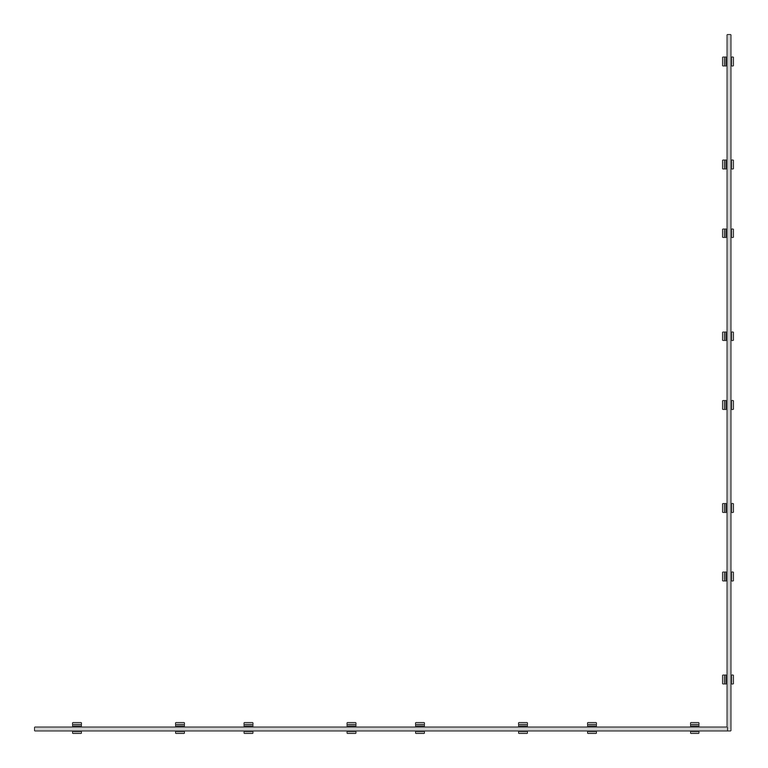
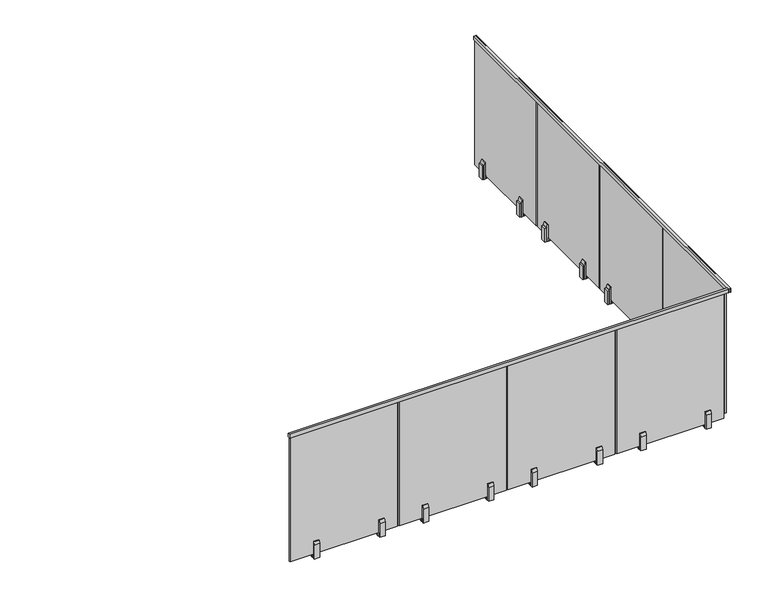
"""IFC4 building model written with IfcOpenShell, lengths in millimetres: railing geometry, VIVA-VISIO-Glass-Steel Fascia Mount-Straight."""

from ifc_helpers import new_model, si_unit, frame, origin, place, context, project, spatial, polyline, outline, extrude, source, transform, mapped, element, save


def railing_caa6281a(model_context):
    return source(origin(), model_context, "Body", "SweptSolid", [
        extrude(outline(polyline([(-12655.0973017, 4140.2), (-12655.0973017, 4102.1), (-12659.6117549, 4102.1), (-12659.6117549, 4136.39), (-12672.3117549, 4136.39), (-12672.3117549, 4102.1), (-12676.826208, 4102.1), (-12676.826208, 4140.2), (-12655.0973017, 4140.2)])), frame((30452.8112561, 0.0, 0.0), z_axis=(1.0, 0.0, 0.0), x_axis=(0.0, 1.0, 0.0)), (0.0, 0.0, 1.0), 4167.4355469),
        extrude(outline(polyline([(4140.2, 34620.2468029), (4102.1, 34620.2468029), (4102.1, 34624.7612561), (4136.39, 34624.7612561), (4136.39, 34637.4612561), (4102.1, 34637.4612561), (4102.1, 34641.9757092), (4140.2, 34641.9757092), (4140.2, 34620.2468029)])), frame((0.0, -12676.826208, 0.0), z_axis=(0.0, 1.0, 0.0), x_axis=(0.0, 0.0, 1.0)), (0.0, 0.0, 1.0), 4189.1644531),
        extrude(outline(polyline([(34593.0112561, -8673.7363268), (34593.0112561, -8622.9363268), (34605.7112561, -8622.9363268), (34605.7112561, -8673.7363268), (34593.0112561, -8673.7363268)])), frame((0.0, 0.0, 2821.0268247), z_axis=(0.0, 0.0, 1.0), x_axis=(1.0, 0.0, 0.0)), (0.0, 0.0, 1.0), 135.5680003),
        extrude(outline(polyline([(34624.7612561, -8673.7363268), (34624.7612561, -8622.9363268), (34637.4612561, -8622.9363268), (34637.4612561, -8673.7363268), (34624.7612561, -8673.7363268)])), frame((0.0, 0.0, 2818.5202907), z_axis=(0.0, 0.0, 1.0), x_axis=(1.0, 0.0, 0.0)), (0.0, 0.0, 1.0), 36.5125),
        extrude(outline(polyline([(2818.5202907, 34605.7112561), (2818.5202907, 34624.7612561), (2985.2077907, 34624.7612561), (2985.2077907, 34616.8237561), (2958.2202907, 34605.7112561), (2818.5202907, 34605.7112561)])), frame((0.0, -8673.7363268, 0.0), z_axis=(0.0, 1.0, 0.0), x_axis=(0.0, 0.0, 1.0)), (0.0, 0.0, 1.0), 50.8),
        extrude(outline(polyline([(2818.5202907, 34656.5112561), (2958.2202907, 34656.5112561), (2985.2077907, 34645.3987561), (2985.2077907, 34637.4612561), (2818.5202907, 34637.4612561), (2818.5202907, 34656.5112561)])), frame((0.0, -8673.7363268, 0.0), z_axis=(0.0, 1.0, 0.0), x_axis=(0.0, 0.0, 1.0)), (0.0, 0.0, 1.0), 50.8),
        extrude(outline(polyline([(34624.7612561, -9512.0099583), (34624.7612561, -8496.0099583), (34637.4612561, -8496.0099583), (34637.4612561, -9512.0099583), (34624.7612561, -9512.0099583)])), frame((0.0, 0.0, 2855.0362), z_axis=(0.0, 0.0, 1.0), x_axis=(1.0, 0.0, 0.0)), (0.0, 0.0, 1.0), 1279.7663),
        extrude(outline(polyline([(34593.0112561, -9293.8138268), (34593.0112561, -9243.0138268), (34605.7112561, -9243.0138268), (34605.7112561, -9293.8138268), (34593.0112561, -9293.8138268)])), frame((0.0, 0.0, 2821.0268247), z_axis=(0.0, 0.0, 1.0), x_axis=(1.0, 0.0, 0.0)), (0.0, 0.0, 1.0), 135.5680003),
        extrude(outline(polyline([(34624.7612561, -9293.8138268), (34624.7612561, -9243.0138268), (34637.4612561, -9243.0138268), (34637.4612561, -9293.8138268), (34624.7612561, -9293.8138268)])), frame((0.0, 0.0, 2818.5202907), z_axis=(0.0, 0.0, 1.0), x_axis=(1.0, 0.0, 0.0)), (0.0, 0.0, 1.0), 36.5125),
        extrude(outline(polyline([(2818.5202907, 34605.7112561), (2818.5202907, 34624.7612561), (2985.2077907, 34624.7612561), (2985.2077907, 34616.8237561), (2958.2202907, 34605.7112561), (2818.5202907, 34605.7112561)])), frame((0.0, -9293.8138268, 0.0), z_axis=(0.0, 1.0, 0.0), x_axis=(0.0, 0.0, 1.0)), (0.0, 0.0, 1.0), 50.8),
        extrude(outline(polyline([(2818.5202907, 34656.5112561), (2958.2202907, 34656.5112561), (2985.2077907, 34645.3987561), (2985.2077907, 34637.4612561), (2818.5202907, 34637.4612561), (2818.5202907, 34656.5112561)])), frame((0.0, -9293.8138268, 0.0), z_axis=(0.0, 1.0, 0.0), x_axis=(0.0, 0.0, 1.0)), (0.0, 0.0, 1.0), 50.8),
        extrude(outline(polyline([(34593.0112561, -9707.1988268), (34593.0112561, -9656.3988268), (34605.7112561, -9656.3988268), (34605.7112561, -9707.1988268), (34593.0112561, -9707.1988268)])), frame((0.0, 0.0, 2821.0268247), z_axis=(0.0, 0.0, 1.0), x_axis=(1.0, 0.0, 0.0)), (0.0, 0.0, 1.0), 135.5680003),
        extrude(outline(polyline([(34624.7612561, -9707.1988268), (34624.7612561, -9656.3988268), (34637.4612561, -9656.3988268), (34637.4612561, -9707.1988268), (34624.7612561, -9707.1988268)])), frame((0.0, 0.0, 2818.5202907), z_axis=(0.0, 0.0, 1.0), x_axis=(1.0, 0.0, 0.0)), (0.0, 0.0, 1.0), 36.5125),
        extrude(outline(polyline([(2818.5202907, 34605.7112561), (2818.5202907, 34624.7612561), (2985.2077907, 34624.7612561), (2985.2077907, 34616.8237561), (2958.2202907, 34605.7112561), (2818.5202907, 34605.7112561)])), frame((0.0, -9707.1988268, 0.0), z_axis=(0.0, 1.0, 0.0), x_axis=(0.0, 0.0, 1.0)), (0.0, 0.0, 1.0), 50.8),
        extrude(outline(polyline([(2818.5202907, 34656.5112561), (2958.2202907, 34656.5112561), (2985.2077907, 34645.3987561), (2985.2077907, 34637.4612561), (2818.5202907, 34637.4612561), (2818.5202907, 34656.5112561)])), frame((0.0, -9707.1988268, 0.0), z_axis=(0.0, 1.0, 0.0), x_axis=(0.0, 0.0, 1.0)), (0.0, 0.0, 1.0), 50.8),
        extrude(outline(polyline([(34624.7612561, -10545.4724583), (34624.7612561, -9529.4724583), (34637.4612561, -9529.4724583), (34637.4612561, -10545.4724583), (34624.7612561, -10545.4724583)])), frame((0.0, 0.0, 2855.0362), z_axis=(0.0, 0.0, 1.0), x_axis=(1.0, 0.0, 0.0)), (0.0, 0.0, 1.0), 1279.7663),
        extrude(outline(polyline([(34593.0112561, -10327.2763268), (34593.0112561, -10276.4763268), (34605.7112561, -10276.4763268), (34605.7112561, -10327.2763268), (34593.0112561, -10327.2763268)])), frame((0.0, 0.0, 2821.0268247), z_axis=(0.0, 0.0, 1.0), x_axis=(1.0, 0.0, 0.0)), (0.0, 0.0, 1.0), 135.5680003),
        extrude(outline(polyline([(34624.7612561, -10327.2763268), (34624.7612561, -10276.4763268), (34637.4612561, -10276.4763268), (34637.4612561, -10327.2763268), (34624.7612561, -10327.2763268)])), frame((0.0, 0.0, 2818.5202907), z_axis=(0.0, 0.0, 1.0), x_axis=(1.0, 0.0, 0.0)), (0.0, 0.0, 1.0), 36.5125),
        extrude(outline(polyline([(2818.5202907, 34605.7112561), (2818.5202907, 34624.7612561), (2985.2077907, 34624.7612561), (2985.2077907, 34616.8237561), (2958.2202907, 34605.7112561), (2818.5202907, 34605.7112561)])), frame((0.0, -10327.2763268, 0.0), z_axis=(0.0, 1.0, 0.0), x_axis=(0.0, 0.0, 1.0)), (0.0, 0.0, 1.0), 50.8),
        extrude(outline(polyline([(2818.5202907, 34656.5112561), (2958.2202907, 34656.5112561), (2985.2077907, 34645.3987561), (2985.2077907, 34637.4612561), (2818.5202907, 34637.4612561), (2818.5202907, 34656.5112561)])), frame((0.0, -10327.2763268, 0.0), z_axis=(0.0, 1.0, 0.0), x_axis=(0.0, 0.0, 1.0)), (0.0, 0.0, 1.0), 50.8),
        extrude(outline(polyline([(34593.0112561, -10740.6613268), (34593.0112561, -10689.8613268), (34605.7112561, -10689.8613268), (34605.7112561, -10740.6613268), (34593.0112561, -10740.6613268)])), frame((0.0, 0.0, 2821.0268247), z_axis=(0.0, 0.0, 1.0), x_axis=(1.0, 0.0, 0.0)), (0.0, 0.0, 1.0), 135.5680003),
        extrude(outline(polyline([(34624.7612561, -10740.6613268), (34624.7612561, -10689.8613268), (34637.4612561, -10689.8613268), (34637.4612561, -10740.6613268), (34624.7612561, -10740.6613268)])), frame((0.0, 0.0, 2818.5202907), z_axis=(0.0, 0.0, 1.0), x_axis=(1.0, 0.0, 0.0)), (0.0, 0.0, 1.0), 36.5125),
        extrude(outline(polyline([(2818.5202907, 34605.7112561), (2818.5202907, 34624.7612561), (2985.2077907, 34624.7612561), (2985.2077907, 34616.8237561), (2958.2202907, 34605.7112561), (2818.5202907, 34605.7112561)])), frame((0.0, -10740.6613268, 0.0), z_axis=(0.0, 1.0, 0.0), x_axis=(0.0, 0.0, 1.0)), (0.0, 0.0, 1.0), 50.8),
        extrude(outline(polyline([(2818.5202907, 34656.5112561), (2958.2202907, 34656.5112561), (2985.2077907, 34645.3987561), (2985.2077907, 34637.4612561), (2818.5202907, 34637.4612561), (2818.5202907, 34656.5112561)])), frame((0.0, -10740.6613268, 0.0), z_axis=(0.0, 1.0, 0.0), x_axis=(0.0, 0.0, 1.0)), (0.0, 0.0, 1.0), 50.8),
        extrude(outline(polyline([(34624.7612561, -11578.9349583), (34624.7612561, -10562.9349583), (34637.4612561, -10562.9349583), (34637.4612561, -11578.9349583), (34624.7612561, -11578.9349583)])), frame((0.0, 0.0, 2855.0362), z_axis=(0.0, 0.0, 1.0), x_axis=(1.0, 0.0, 0.0)), (0.0, 0.0, 1.0), 1279.7663),
        extrude(outline(polyline([(34593.0112561, -11360.7388268), (34593.0112561, -11309.9388268), (34605.7112561, -11309.9388268), (34605.7112561, -11360.7388268), (34593.0112561, -11360.7388268)])), frame((0.0, 0.0, 2821.0268247), z_axis=(0.0, 0.0, 1.0), x_axis=(1.0, 0.0, 0.0)), (0.0, 0.0, 1.0), 135.5680003),
        extrude(outline(polyline([(34624.7612561, -11360.7388268), (34624.7612561, -11309.9388268), (34637.4612561, -11309.9388268), (34637.4612561, -11360.7388268), (34624.7612561, -11360.7388268)])), frame((0.0, 0.0, 2818.5202907), z_axis=(0.0, 0.0, 1.0), x_axis=(1.0, 0.0, 0.0)), (0.0, 0.0, 1.0), 36.5125),
        extrude(outline(polyline([(2818.5202907, 34605.7112561), (2818.5202907, 34624.7612561), (2985.2077907, 34624.7612561), (2985.2077907, 34616.8237561), (2958.2202907, 34605.7112561), (2818.5202907, 34605.7112561)])), frame((0.0, -11360.7388268, 0.0), z_axis=(0.0, 1.0, 0.0), x_axis=(0.0, 0.0, 1.0)), (0.0, 0.0, 1.0), 50.8),
        extrude(outline(polyline([(2818.5202907, 34656.5112561), (2958.2202907, 34656.5112561), (2985.2077907, 34645.3987561), (2985.2077907, 34637.4612561), (2818.5202907, 34637.4612561), (2818.5202907, 34656.5112561)])), frame((0.0, -11360.7388268, 0.0), z_axis=(0.0, 1.0, 0.0), x_axis=(0.0, 0.0, 1.0)), (0.0, 0.0, 1.0), 50.8),
        extrude(outline(polyline([(34593.0112561, -11774.1238268), (34593.0112561, -11723.3238268), (34605.7112561, -11723.3238268), (34605.7112561, -11774.1238268), (34593.0112561, -11774.1238268)])), frame((0.0, 0.0, 2821.0268247), z_axis=(0.0, 0.0, 1.0), x_axis=(1.0, 0.0, 0.0)), (0.0, 0.0, 1.0), 135.5680003),
        extrude(outline(polyline([(34624.7612561, -11774.1238268), (34624.7612561, -11723.3238268), (34637.4612561, -11723.3238268), (34637.4612561, -11774.1238268), (34624.7612561, -11774.1238268)])), frame((0.0, 0.0, 2818.5202907), z_axis=(0.0, 0.0, 1.0), x_axis=(1.0, 0.0, 0.0)), (0.0, 0.0, 1.0), 36.5125),
        extrude(outline(polyline([(2818.5202907, 34605.7112561), (2818.5202907, 34624.7612561), (2985.2077907, 34624.7612561), (2985.2077907, 34616.8237561), (2958.2202907, 34605.7112561), (2818.5202907, 34605.7112561)])), frame((0.0, -11774.1238268, 0.0), z_axis=(0.0, 1.0, 0.0), x_axis=(0.0, 0.0, 1.0)), (0.0, 0.0, 1.0), 50.8),
        extrude(outline(polyline([(2818.5202907, 34656.5112561), (2958.2202907, 34656.5112561), (2985.2077907, 34645.3987561), (2985.2077907, 34637.4612561), (2818.5202907, 34637.4612561), (2818.5202907, 34656.5112561)])), frame((0.0, -11774.1238268, 0.0), z_axis=(0.0, 1.0, 0.0), x_axis=(0.0, 0.0, 1.0)), (0.0, 0.0, 1.0), 50.8),
        extrude(outline(polyline([(34624.7612561, -12612.3974583), (34624.7612561, -11596.3974583), (34637.4612561, -11596.3974583), (34637.4612561, -12612.3974583), (34624.7612561, -12612.3974583)])), frame((0.0, 0.0, 2855.0362), z_axis=(0.0, 0.0, 1.0), x_axis=(1.0, 0.0, 0.0)), (0.0, 0.0, 1.0), 1279.7663),
        extrude(outline(polyline([(34593.0112561, -12394.2013268), (34593.0112561, -12343.4013268), (34605.7112561, -12343.4013268), (34605.7112561, -12394.2013268), (34593.0112561, -12394.2013268)])), frame((0.0, 0.0, 2821.0268247), z_axis=(0.0, 0.0, 1.0), x_axis=(1.0, 0.0, 0.0)), (0.0, 0.0, 1.0), 135.5680003),
        extrude(outline(polyline([(34624.7612561, -12394.2013268), (34624.7612561, -12343.4013268), (34637.4612561, -12343.4013268), (34637.4612561, -12394.2013268), (34624.7612561, -12394.2013268)])), frame((0.0, 0.0, 2818.5202907), z_axis=(0.0, 0.0, 1.0), x_axis=(1.0, 0.0, 0.0)), (0.0, 0.0, 1.0), 36.5125),
        extrude(outline(polyline([(2818.5202907, 34605.7112561), (2818.5202907, 34624.7612561), (2985.2077907, 34624.7612561), (2985.2077907, 34616.8237561), (2958.2202907, 34605.7112561), (2818.5202907, 34605.7112561)])), frame((0.0, -12394.2013268, 0.0), z_axis=(0.0, 1.0, 0.0), x_axis=(0.0, 0.0, 1.0)), (0.0, 0.0, 1.0), 50.8),
        extrude(outline(polyline([(2818.5202907, 34656.5112561), (2958.2202907, 34656.5112561), (2985.2077907, 34645.3987561), (2985.2077907, 34637.4612561), (2818.5202907, 34637.4612561), (2818.5202907, 34656.5112561)])), frame((0.0, -12394.2013268, 0.0), z_axis=(0.0, 1.0, 0.0), x_axis=(0.0, 0.0, 1.0)), (0.0, 0.0, 1.0), 50.8),
        extrude(outline(polyline([(34400.5866841, -12627.8617549), (34451.3866841, -12627.8617549), (34451.3866841, -12640.5617549), (34400.5866841, -12640.5617549), (34400.5866841, -12627.8617549)])), frame((0.0, 0.0, 2821.0268247), z_axis=(0.0, 0.0, 1.0), x_axis=(1.0, 0.0, 0.0)), (0.0, 0.0, 1.0), 135.5680003),
        extrude(outline(polyline([(34400.5866841, -12659.6117549), (34451.3866841, -12659.6117549), (34451.3866841, -12672.3117549), (34400.5866841, -12672.3117549), (34400.5866841, -12659.6117549)])), frame((0.0, 0.0, 2818.5202907), z_axis=(0.0, 0.0, 1.0), x_axis=(1.0, 0.0, 0.0)), (0.0, 0.0, 1.0), 36.5125),
        extrude(outline(polyline([(-12640.5617549, 2818.5202907), (-12659.6117549, 2818.5202907), (-12659.6117549, 2985.2077907), (-12651.6742549, 2985.2077907), (-12640.5617549, 2958.2202907), (-12640.5617549, 2818.5202907)])), frame((34400.5866841, 0.0, 0.0), z_axis=(1.0, 0.0, 0.0), x_axis=(0.0, 1.0, 0.0)), (0.0, 0.0, 1.0), 50.8),
        extrude(outline(polyline([(-12691.3617549, 2818.5202907), (-12691.3617549, 2958.2202907), (-12680.2492549, 2985.2077907), (-12672.3117549, 2985.2077907), (-12672.3117549, 2818.5202907), (-12691.3617549, 2818.5202907)])), frame((34400.5866841, 0.0, 0.0), z_axis=(1.0, 0.0, 0.0), x_axis=(0.0, 1.0, 0.0)), (0.0, 0.0, 1.0), 50.8),
        extrude(outline(polyline([(33562.3130527, -12659.6117549), (34578.3130527, -12659.6117549), (34578.3130527, -12672.3117549), (33562.3130527, -12672.3117549), (33562.3130527, -12659.6117549)])), frame((0.0, 0.0, 2855.0362), z_axis=(0.0, 0.0, 1.0), x_axis=(1.0, 0.0, 0.0)), (0.0, 0.0, 1.0), 1279.7663),
        extrude(outline(polyline([(33780.5091841, -12627.8617549), (33831.3091841, -12627.8617549), (33831.3091841, -12640.5617549), (33780.5091841, -12640.5617549), (33780.5091841, -12627.8617549)])), frame((0.0, 0.0, 2821.0268247), z_axis=(0.0, 0.0, 1.0), x_axis=(1.0, 0.0, 0.0)), (0.0, 0.0, 1.0), 135.5680003),
        extrude(outline(polyline([(33780.5091841, -12659.6117549), (33831.3091841, -12659.6117549), (33831.3091841, -12672.3117549), (33780.5091841, -12672.3117549), (33780.5091841, -12659.6117549)])), frame((0.0, 0.0, 2818.5202907), z_axis=(0.0, 0.0, 1.0), x_axis=(1.0, 0.0, 0.0)), (0.0, 0.0, 1.0), 36.5125),
        extrude(outline(polyline([(-12640.5617549, 2818.5202907), (-12659.6117549, 2818.5202907), (-12659.6117549, 2985.2077907), (-12651.6742549, 2985.2077907), (-12640.5617549, 2958.2202907), (-12640.5617549, 2818.5202907)])), frame((33780.5091841, 0.0, 0.0), z_axis=(1.0, 0.0, 0.0), x_axis=(0.0, 1.0, 0.0)), (0.0, 0.0, 1.0), 50.8),
        extrude(outline(polyline([(-12691.3617549, 2818.5202907), (-12691.3617549, 2958.2202907), (-12680.2492549, 2985.2077907), (-12672.3117549, 2985.2077907), (-12672.3117549, 2818.5202907), (-12691.3617549, 2818.5202907)])), frame((33780.5091841, 0.0, 0.0), z_axis=(1.0, 0.0, 0.0), x_axis=(0.0, 1.0, 0.0)), (0.0, 0.0, 1.0), 50.8),
        extrude(outline(polyline([(33367.1241841, -12627.8617549), (33417.9241841, -12627.8617549), (33417.9241841, -12640.5617549), (33367.1241841, -12640.5617549), (33367.1241841, -12627.8617549)])), frame((0.0, 0.0, 2821.0268247), z_axis=(0.0, 0.0, 1.0), x_axis=(1.0, 0.0, 0.0)), (0.0, 0.0, 1.0), 135.5680003),
        extrude(outline(polyline([(33367.1241841, -12659.6117549), (33417.9241841, -12659.6117549), (33417.9241841, -12672.3117549), (33367.1241841, -12672.3117549), (33367.1241841, -12659.6117549)])), frame((0.0, 0.0, 2818.5202907), z_axis=(0.0, 0.0, 1.0), x_axis=(1.0, 0.0, 0.0)), (0.0, 0.0, 1.0), 36.5125),
        extrude(outline(polyline([(-12640.5617549, 2818.5202907), (-12659.6117549, 2818.5202907), (-12659.6117549, 2985.2077907), (-12651.6742549, 2985.2077907), (-12640.5617549, 2958.2202907), (-12640.5617549, 2818.5202907)])), frame((33367.1241841, 0.0, 0.0), z_axis=(1.0, 0.0, 0.0), x_axis=(0.0, 1.0, 0.0)), (0.0, 0.0, 1.0), 50.8),
        extrude(outline(polyline([(-12691.3617549, 2818.5202907), (-12691.3617549, 2958.2202907), (-12680.2492549, 2985.2077907), (-12672.3117549, 2985.2077907), (-12672.3117549, 2818.5202907), (-12691.3617549, 2818.5202907)])), frame((33367.1241841, 0.0, 0.0), z_axis=(1.0, 0.0, 0.0), x_axis=(0.0, 1.0, 0.0)), (0.0, 0.0, 1.0), 50.8),
        extrude(outline(polyline([(32528.8505527, -12659.6117549), (33544.8505527, -12659.6117549), (33544.8505527, -12672.3117549), (32528.8505527, -12672.3117549), (32528.8505527, -12659.6117549)])), frame((0.0, 0.0, 2855.0362), z_axis=(0.0, 0.0, 1.0), x_axis=(1.0, 0.0, 0.0)), (0.0, 0.0, 1.0), 1279.7663),
        extrude(outline(polyline([(32747.0466841, -12627.8617549), (32797.8466841, -12627.8617549), (32797.8466841, -12640.5617549), (32747.0466841, -12640.5617549), (32747.0466841, -12627.8617549)])), frame((0.0, 0.0, 2821.0268247), z_axis=(0.0, 0.0, 1.0), x_axis=(1.0, 0.0, 0.0)), (0.0, 0.0, 1.0), 135.5680003),
        extrude(outline(polyline([(32747.0466841, -12659.6117549), (32797.8466841, -12659.6117549), (32797.8466841, -12672.3117549), (32747.0466841, -12672.3117549), (32747.0466841, -12659.6117549)])), frame((0.0, 0.0, 2818.5202907), z_axis=(0.0, 0.0, 1.0), x_axis=(1.0, 0.0, 0.0)), (0.0, 0.0, 1.0), 36.5125),
        extrude(outline(polyline([(-12640.5617549, 2818.5202907), (-12659.6117549, 2818.5202907), (-12659.6117549, 2985.2077907), (-12651.6742549, 2985.2077907), (-12640.5617549, 2958.2202907), (-12640.5617549, 2818.5202907)])), frame((32747.0466841, 0.0, 0.0), z_axis=(1.0, 0.0, 0.0), x_axis=(0.0, 1.0, 0.0)), (0.0, 0.0, 1.0), 50.8),
        extrude(outline(polyline([(-12691.3617549, 2818.5202907), (-12691.3617549, 2958.2202907), (-12680.2492549, 2985.2077907), (-12672.3117549, 2985.2077907), (-12672.3117549, 2818.5202907), (-12691.3617549, 2818.5202907)])), frame((32747.0466841, 0.0, 0.0), z_axis=(1.0, 0.0, 0.0), x_axis=(0.0, 1.0, 0.0)), (0.0, 0.0, 1.0), 50.8),
        extrude(outline(polyline([(32333.6616841, -12627.8617549), (32384.4616841, -12627.8617549), (32384.4616841, -12640.5617549), (32333.6616841, -12640.5617549), (32333.6616841, -12627.8617549)])), frame((0.0, 0.0, 2821.0268247), z_axis=(0.0, 0.0, 1.0), x_axis=(1.0, 0.0, 0.0)), (0.0, 0.0, 1.0), 135.5680003),
        extrude(outline(polyline([(32333.6616841, -12659.6117549), (32384.4616841, -12659.6117549), (32384.4616841, -12672.3117549), (32333.6616841, -12672.3117549), (32333.6616841, -12659.6117549)])), frame((0.0, 0.0, 2818.5202907), z_axis=(0.0, 0.0, 1.0), x_axis=(1.0, 0.0, 0.0)), (0.0, 0.0, 1.0), 36.5125),
        extrude(outline(polyline([(-12640.5617549, 2818.5202907), (-12659.6117549, 2818.5202907), (-12659.6117549, 2985.2077907), (-12651.6742549, 2985.2077907), (-12640.5617549, 2958.2202907), (-12640.5617549, 2818.5202907)])), frame((32333.6616841, 0.0, 0.0), z_axis=(1.0, 0.0, 0.0), x_axis=(0.0, 1.0, 0.0)), (0.0, 0.0, 1.0), 50.8),
        extrude(outline(polyline([(-12691.3617549, 2818.5202907), (-12691.3617549, 2958.2202907), (-12680.2492549, 2985.2077907), (-12672.3117549, 2985.2077907), (-12672.3117549, 2818.5202907), (-12691.3617549, 2818.5202907)])), frame((32333.6616841, 0.0, 0.0), z_axis=(1.0, 0.0, 0.0), x_axis=(0.0, 1.0, 0.0)), (0.0, 0.0, 1.0), 50.8),
        extrude(outline(polyline([(31495.3880527, -12659.6117549), (32511.3880527, -12659.6117549), (32511.3880527, -12672.3117549), (31495.3880527, -12672.3117549), (31495.3880527, -12659.6117549)])), frame((0.0, 0.0, 2855.0362), z_axis=(0.0, 0.0, 1.0), x_axis=(1.0, 0.0, 0.0)), (0.0, 0.0, 1.0), 1279.7663),
        extrude(outline(polyline([(31713.5841841, -12627.8617549), (31764.3841841, -12627.8617549), (31764.3841841, -12640.5617549), (31713.5841841, -12640.5617549), (31713.5841841, -12627.8617549)])), frame((0.0, 0.0, 2821.0268247), z_axis=(0.0, 0.0, 1.0), x_axis=(1.0, 0.0, 0.0)), (0.0, 0.0, 1.0), 135.5680003),
        extrude(outline(polyline([(31713.5841841, -12659.6117549), (31764.3841841, -12659.6117549), (31764.3841841, -12672.3117549), (31713.5841841, -12672.3117549), (31713.5841841, -12659.6117549)])), frame((0.0, 0.0, 2818.5202907), z_axis=(0.0, 0.0, 1.0), x_axis=(1.0, 0.0, 0.0)), (0.0, 0.0, 1.0), 36.5125),
        extrude(outline(polyline([(-12640.5617549, 2818.5202907), (-12659.6117549, 2818.5202907), (-12659.6117549, 2985.2077907), (-12651.6742549, 2985.2077907), (-12640.5617549, 2958.2202907), (-12640.5617549, 2818.5202907)])), frame((31713.5841841, 0.0, 0.0), z_axis=(1.0, 0.0, 0.0), x_axis=(0.0, 1.0, 0.0)), (0.0, 0.0, 1.0), 50.8),
        extrude(outline(polyline([(-12691.3617549, 2818.5202907), (-12691.3617549, 2958.2202907), (-12680.2492549, 2985.2077907), (-12672.3117549, 2985.2077907), (-12672.3117549, 2818.5202907), (-12691.3617549, 2818.5202907)])), frame((31713.5841841, 0.0, 0.0), z_axis=(1.0, 0.0, 0.0), x_axis=(0.0, 1.0, 0.0)), (0.0, 0.0, 1.0), 50.8),
        extrude(outline(polyline([(31300.1991841, -12627.8617549), (31350.9991841, -12627.8617549), (31350.9991841, -12640.5617549), (31300.1991841, -12640.5617549), (31300.1991841, -12627.8617549)])), frame((0.0, 0.0, 2821.0268247), z_axis=(0.0, 0.0, 1.0), x_axis=(1.0, 0.0, 0.0)), (0.0, 0.0, 1.0), 135.5680003),
        extrude(outline(polyline([(31300.1991841, -12659.6117549), (31350.9991841, -12659.6117549), (31350.9991841, -12672.3117549), (31300.1991841, -12672.3117549), (31300.1991841, -12659.6117549)])), frame((0.0, 0.0, 2818.5202907), z_axis=(0.0, 0.0, 1.0), x_axis=(1.0, 0.0, 0.0)), (0.0, 0.0, 1.0), 36.5125),
        extrude(outline(polyline([(-12640.5617549, 2818.5202907), (-12659.6117549, 2818.5202907), (-12659.6117549, 2985.2077907), (-12651.6742549, 2985.2077907), (-12640.5617549, 2958.2202907), (-12640.5617549, 2818.5202907)])), frame((31300.1991841, 0.0, 0.0), z_axis=(1.0, 0.0, 0.0), x_axis=(0.0, 1.0, 0.0)), (0.0, 0.0, 1.0), 50.8),
        extrude(outline(polyline([(-12691.3617549, 2818.5202907), (-12691.3617549, 2958.2202907), (-12680.2492549, 2985.2077907), (-12672.3117549, 2985.2077907), (-12672.3117549, 2818.5202907), (-12691.3617549, 2818.5202907)])), frame((31300.1991841, 0.0, 0.0), z_axis=(1.0, 0.0, 0.0), x_axis=(0.0, 1.0, 0.0)), (0.0, 0.0, 1.0), 50.8),
        extrude(outline(polyline([(30461.9255527, -12659.6117549), (31477.9255527, -12659.6117549), (31477.9255527, -12672.3117549), (30461.9255527, -12672.3117549), (30461.9255527, -12659.6117549)])), frame((0.0, 0.0, 2855.0362), z_axis=(0.0, 0.0, 1.0), x_axis=(1.0, 0.0, 0.0)), (0.0, 0.0, 1.0), 1279.7663),
        extrude(outline(polyline([(30680.1216841, -12627.8617549), (30730.9216841, -12627.8617549), (30730.9216841, -12640.5617549), (30680.1216841, -12640.5617549), (30680.1216841, -12627.8617549)])), frame((0.0, 0.0, 2821.0268247), z_axis=(0.0, 0.0, 1.0), x_axis=(1.0, 0.0, 0.0)), (0.0, 0.0, 1.0), 135.5680003),
        extrude(outline(polyline([(30680.1216841, -12659.6117549), (30730.9216841, -12659.6117549), (30730.9216841, -12672.3117549), (30680.1216841, -12672.3117549), (30680.1216841, -12659.6117549)])), frame((0.0, 0.0, 2818.5202907), z_axis=(0.0, 0.0, 1.0), x_axis=(1.0, 0.0, 0.0)), (0.0, 0.0, 1.0), 36.5125),
        extrude(outline(polyline([(-12640.5617549, 2818.5202907), (-12659.6117549, 2818.5202907), (-12659.6117549, 2985.2077907), (-12651.6742549, 2985.2077907), (-12640.5617549, 2958.2202907), (-12640.5617549, 2818.5202907)])), frame((30680.1216841, 0.0, 0.0), z_axis=(1.0, 0.0, 0.0), x_axis=(0.0, 1.0, 0.0)), (0.0, 0.0, 1.0), 50.8),
        extrude(outline(polyline([(-12691.3617549, 2818.5202907), (-12691.3617549, 2958.2202907), (-12680.2492549, 2985.2077907), (-12672.3117549, 2985.2077907), (-12672.3117549, 2818.5202907), (-12691.3617549, 2818.5202907)])), frame((30680.1216841, 0.0, 0.0), z_axis=(1.0, 0.0, 0.0), x_axis=(0.0, 1.0, 0.0)), (0.0, 0.0, 1.0), 50.8),
    ])


if __name__ == "__main__":
    model = new_model("IFC4")
    model_context = context("Model", 3, world=origin())
    ifc_project = project(units=[si_unit("LENGTHUNIT", "METRE", prefix="MILLI")], contexts=[model_context])
    site = spatial("IfcSite", under=ifc_project)
    building = spatial("IfcBuilding", under=site)
    placement = place(None, origin())
    railing_shape = railing_caa6281a(model_context)
    element("IfcRailing", 1, ObjectType="VIVA-VISIO-Glass-Steel Fascia Mount-Straight", at=placement, inside=building, context=model_context, shape_type="MappedRepresentation", body=[
        mapped(railing_shape, transform((0.0, 0.0, 0.0), x_axis=(1.0, 0.0, 0.0), y_axis=(0.0, 1.0, 0.0), z_axis=(0.0, 0.0, 1.0))),
    ])
    save(model, "model.ifc")
